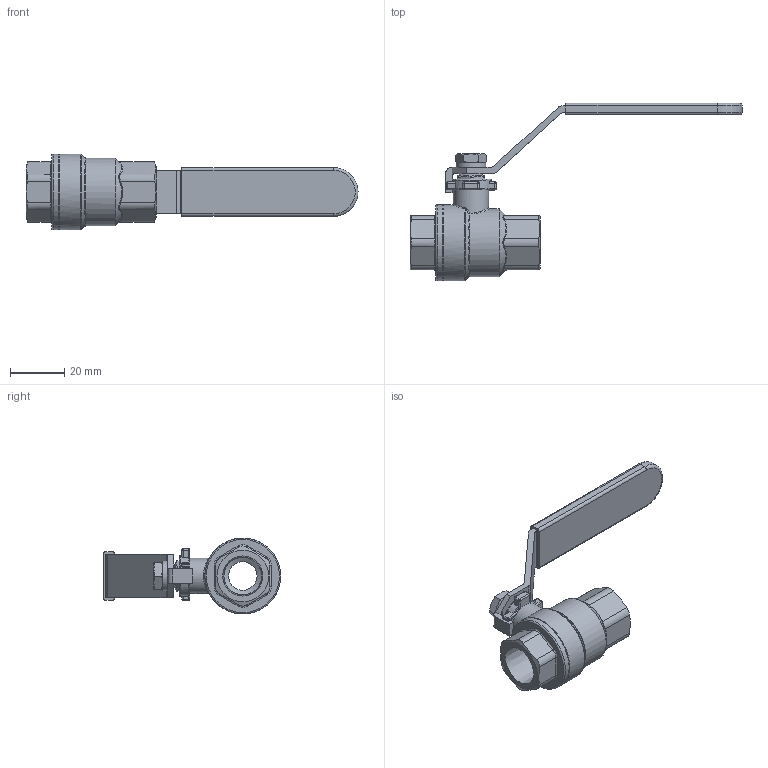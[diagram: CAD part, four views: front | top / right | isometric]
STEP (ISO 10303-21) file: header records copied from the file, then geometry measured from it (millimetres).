
FILE_DESCRIPTION((''),'2;1');
FILE_NAME('F:\Drawings\OneDrive - Avco Valve\Derek\200 Series\Machine Drawings\3D Insertables\200 Series\200-SE-038-LH.stp','2022-10-07T09:27:22',('dKouns'),(''),'Autodesk Inventor 2012','Autodesk Inventor 2012','');
FILE_SCHEMA(('AUTOMOTIVE_DESIGN { 1 0 10303 214 1 1 1 1 }'));
Length unit declared in the file: millimetre
Products named in the file (6): 200-SE-038-LH; 200-SE-038; 200-038-HANDLE; M6 Washer; M6 Nut; 200-025-SLEEVE
Assembly tree (5 placements, depth 2):
  200-SE-038-LH
    200-SE-038
    200-038-HANDLE
    M6 Washer
    M6 Nut
    200-025-SLEEVE
Bounding box: 122.5 x 65.5 x 28 mm (x, y, z)
Volume: 24072.7 mm3; surface area: 17278 mm2
Topology: 5 solids, 5 shells, 327 faces, 796 edges, 489 vertices
Faces by surface type: plane 120, cylinder 84, bspline 57, cone 27, sphere 24, torus 15
Full cylindrical faces by diameter (mm): 6 x1, 6.4 x1, 10.5 x1, 11 x1, 13 x1, 13.889 x2, 15 x1, 25 x2, 28 x2
Entity records: 11150 total; most frequent: CARTESIAN_POINT 3963, ORIENTED_EDGE 1492, DIRECTION 1332, EDGE_CURVE 746, AXIS2_PLACEMENT_3D 507, VERTEX_POINT 469, EDGE_LOOP 373, FACE_OUTER_BOUND 326
